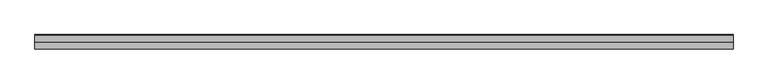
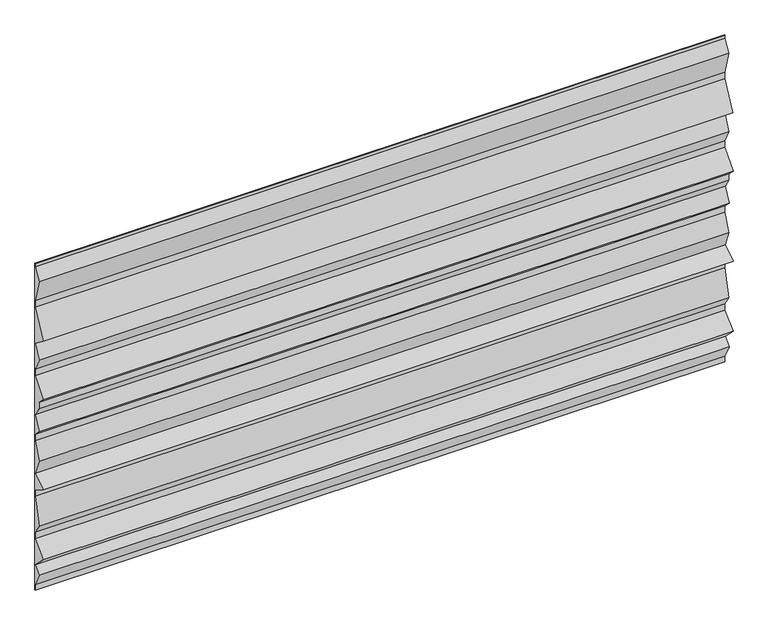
"""IFC4 building model written with IfcOpenShell, lengths in millimetres: plate geometry, ATELIERS 3S_GLACE PISSAILLAS 1000_HORIZONTAL : AZURO."""

from ifc_helpers import new_model, si_unit, frame, origin, place, context, project, spatial, polyline, outline, extrude, source, transform, mapped, element, save


def plate_7813652d(model_context):
    return source(origin(), model_context, "Body", "SweptSolid", [
        extrude(outline(polyline([(-0.8, 0.0), (-0.8, 16.9163895), (-20.9135393, 57.5498441), (-1.0660999, 76.9962838), (-41.0606602, 116.9908441), (-0.75, 157.3015043), (-0.75, 176.7637624), (-20.8080747, 206.8508744), (-0.75, 287.0831733), (-0.75, 306.5751584), (-41.4150972, 331.9908441), (-0.9292392, 357.2945053), (-20.8077747, 406.9908441), (-0.75, 457.1352809), (-0.75, 476.6801839), (-20.9125704, 496.8427543), (-0.8654665, 536.9369621), (-20.75, 566.7637624), (-20.75, 586.6801839), (-41.009736, 606.9399199), (-0.75, 656.2580964), (-0.75, 675.8137931), (-20.8385255, 715.9908441), (-0.9507458, 755.7664035), (-40.9507458, 785.7664035), (-0.75, 866.1678951), (-0.75, 885.8862432), (-20.8096981, 956.4025169), (-0.8, 990.1124394), (-0.8, 1000.0), (0.0, 1000.0), (0.0, 0.0), (-0.8, 0.0)])), frame((-999.362758, 0.0, 0.0), z_axis=(1.0, 0.0, 0.0), x_axis=(0.0, 1.0, 0.0)), (0.0, 0.0, 1.0), 1998.7255161),
    ])


if __name__ == "__main__":
    model = new_model("IFC4")
    model_context = context("Model", 3, world=origin())
    ifc_project = project(units=[si_unit("LENGTHUNIT", "METRE", prefix="MILLI")], contexts=[model_context])
    site = spatial("IfcSite", under=ifc_project)
    building = spatial("IfcBuilding", under=site)
    placement = place(None, origin())
    plate_shape = plate_7813652d(model_context)
    element("IfcPlate", 1, ObjectType="ATELIERS 3S_GLACE PISSAILLAS 1000_HORIZONTAL : AZURO", at=placement, inside=building, context=model_context, shape_type="MappedRepresentation", body=[
        mapped(plate_shape, transform((0.0, 0.0, 0.0), x_axis=(1.0, 0.0, 0.0), y_axis=(0.0, 1.0, 0.0), z_axis=(0.0, 0.0, 1.0))),
    ])
    save(model, "model.ifc")
